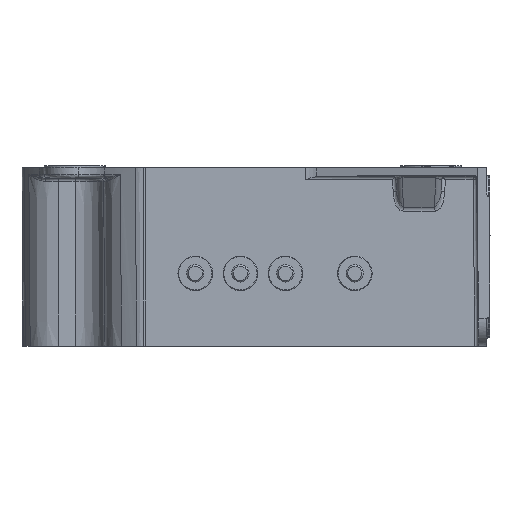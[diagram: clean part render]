
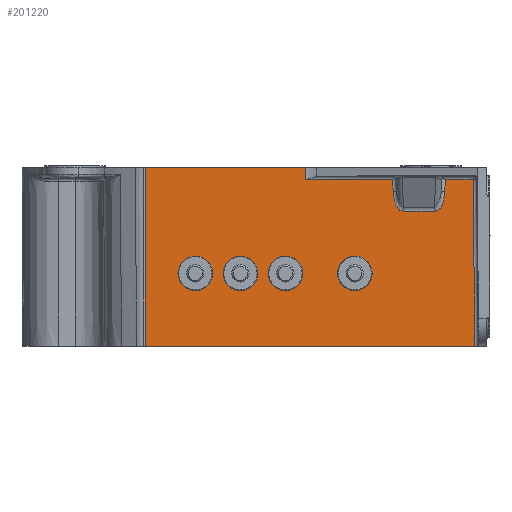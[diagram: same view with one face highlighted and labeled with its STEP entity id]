
A CAD part, left-side view. The second image highlights one B-rep face of the part: STEP entity #201220.
In plain terms, the highlighted planar face has unit normal (-1, 0, 0).
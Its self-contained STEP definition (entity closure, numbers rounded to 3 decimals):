
#12410=CARTESIAN_POINT('',(-60.366,-116.308,
-572.016));
#12420=VERTEX_POINT('',#12410);
#12450=CARTESIAN_POINT('',(-60.366,-116.308,
-572.016));
#12460=DIRECTION('',(0.,1.,0.));
#12470=VECTOR('',#12460,1.);
#12480=LINE('',#12450,#12470);
#12490=CARTESIAN_POINT('',(-60.366,-70.202,
-572.016));
#12500=VERTEX_POINT('',#12490);
#12510=EDGE_CURVE('',#12420,#12500,#12480,.T.);
#199300=CARTESIAN_POINT('',(-60.366,-70.202,
-623.516));
#199310=DIRECTION('',(0.,0.,1.));
#199320=VECTOR('',#199310,1.);
#199330=LINE('',#199300,#199320);
#199340=CARTESIAN_POINT('',(-60.366,-70.202,
-623.516));
#199350=VERTEX_POINT('',#199340);
#199360=EDGE_CURVE('',#199350,#12500,#199330,.T.);
#199550=CARTESIAN_POINT('',(-60.366,-48.629,
-623.516));
#199560=DIRECTION('',(1.,0.,0.));
#199570=DIRECTION('',(0.,1.,0.));
#199580=AXIS2_PLACEMENT_3D('',#199550,#199560,#199570);
#199590=PLANE('',#199580);
#199600=CARTESIAN_POINT('',(-60.366,-165.239,
-623.516));
#199610=DIRECTION('',(0.,0.009,
1.));
#199620=VECTOR('',#199610,1.);
#199630=LINE('',#199600,#199620);
#199640=CARTESIAN_POINT('',(-60.366,-165.239,
-623.516));
#199650=VERTEX_POINT('',#199640);
#199660=CARTESIAN_POINT('',(-60.366,-164.82,
-575.504));
#199670=VERTEX_POINT('',#199660);
#199680=EDGE_CURVE('',#199650,#199670,#199630,.T.);
#199690=ORIENTED_EDGE('',*,*,#199680,.T.);
#199700=CARTESIAN_POINT('',(-60.366,-70.202,
-623.516));
#199710=DIRECTION('',(0.,-1.,0.));
#199720=VECTOR('',#199710,1.);
#199730=LINE('',#199700,#199720);
#199740=EDGE_CURVE('',#199350,#199650,#199730,.T.);
#199750=ORIENTED_EDGE('',*,*,#199740,.T.);
#199760=ORIENTED_EDGE('',*,*,#199360,.F.);
#199770=ORIENTED_EDGE('',*,*,#12510,.T.);
#199780=CARTESIAN_POINT('',(-60.366,-116.308,
-572.016));
#199790=DIRECTION('',(0.,0.,-1.));
#199800=VECTOR('',#199790,1.);
#199810=LINE('',#199780,#199800);
#199820=CARTESIAN_POINT('',(-60.366,-116.308,
-575.504));
#199830=VERTEX_POINT('',#199820);
#199840=EDGE_CURVE('',#12420,#199830,#199810,.T.);
#199850=ORIENTED_EDGE('',*,*,#199840,.F.);
#199860=CARTESIAN_POINT('',(-60.366,-116.308,
-575.504));
#199870=DIRECTION('',(0.,-1.,0.));
#199880=VECTOR('',#199870,1.);
#199890=LINE('',#199860,#199880);
#199900=CARTESIAN_POINT('',(-60.366,-141.534,
-575.504));
#199910=VERTEX_POINT('',#199900);
#199920=EDGE_CURVE('',#199830,#199910,#199890,.T.);
#199930=ORIENTED_EDGE('',*,*,#199920,.F.);
#199940=CARTESIAN_POINT('',(-60.366,-141.708,
-578.827));
#199950=DIRECTION('',(0.,0.052,0.999));
#199960=VECTOR('',#199950,1.);
#199970=LINE('',#199940,#199960);
#199980=CARTESIAN_POINT('',(-60.366,-141.708,
-578.827));
#199990=VERTEX_POINT('',#199980);
#200000=EDGE_CURVE('',#199990,#199910,#199970,.T.);
#200010=ORIENTED_EDGE('',*,*,#200000,.T.);
#200020=CARTESIAN_POINT('',(-60.366,-144.712,
-584.548));
#200030=CARTESIAN_POINT('',(-60.366,-144.564,
-584.548));
#200040=CARTESIAN_POINT('',(-60.366,-144.281,
-584.522));
#200050=CARTESIAN_POINT('',(-60.366,-143.899,
-584.411));
#200060=CARTESIAN_POINT('',(-60.366,-143.557,
-584.233));
#200070=CARTESIAN_POINT('',(-60.366,-143.15,
-583.918));
#200080=CARTESIAN_POINT('',(-60.366,-142.73,
-583.391));
#200090=CARTESIAN_POINT('',(-60.366,-142.348,
-582.596));
#200100=CARTESIAN_POINT('',(-60.366,-142.072,
-581.69));
#200110=CARTESIAN_POINT('',(-60.366,-141.884,
-580.723));
#200120=CARTESIAN_POINT('',(-60.366,-141.767,
-579.747));
#200130=CARTESIAN_POINT('',(-60.366,-141.724,
-579.123));
#200140=CARTESIAN_POINT('',(-60.366,-141.708,
-578.827));
#200150=B_SPLINE_CURVE_WITH_KNOTS('',3,(#200020,#200030,#200040,#200050,
#200060,#200070,#200080,#200090,#200100,#200110,#200120,#200130,#200140)
,.UNSPECIFIED.,.F.,.F.,(4,1,1,1,1,1,1,1,1,1,4),(0.,
0.063,0.125,0.188,0.25
,0.375,0.5,0.625,0.75
,0.875,1.),.UNSPECIFIED.);
#200160=CARTESIAN_POINT('',(-60.366,-144.712,
-584.548));
#200170=VERTEX_POINT('',#200160);
#200180=EDGE_CURVE('',#200170,#199990,#200150,.T.);
#200190=ORIENTED_EDGE('',*,*,#200180,.T.);
#200200=CARTESIAN_POINT('',(-60.366,-144.712,
-584.548));
#200210=DIRECTION('',(0.,-1.,0.));
#200220=VECTOR('',#200210,1.);
#200230=LINE('',#200200,#200220);
#200240=CARTESIAN_POINT('',(-60.366,-153.593,
-584.548));
#200250=VERTEX_POINT('',#200240);
#200260=EDGE_CURVE('',#200170,#200250,#200230,.T.);
#200270=ORIENTED_EDGE('',*,*,#200260,.F.);
#200280=CARTESIAN_POINT('',(-60.366,-156.597,
-578.827));
#200290=CARTESIAN_POINT('',(-60.366,-156.581,
-579.123));
#200300=CARTESIAN_POINT('',(-60.366,-156.538,
-579.747));
#200310=CARTESIAN_POINT('',(-60.366,-156.421,
-580.723));
#200320=CARTESIAN_POINT('',(-60.366,-156.233,
-581.69));
#200330=CARTESIAN_POINT('',(-60.366,-155.957,
-582.596));
#200340=CARTESIAN_POINT('',(-60.366,-155.575,
-583.391));
#200350=CARTESIAN_POINT('',(-60.366,-155.155,
-583.918));
#200360=CARTESIAN_POINT('',(-60.366,-154.748,
-584.233));
#200370=CARTESIAN_POINT('',(-60.366,-154.405,
-584.411));
#200380=CARTESIAN_POINT('',(-60.366,-154.024,
-584.522));
#200390=CARTESIAN_POINT('',(-60.366,-153.741,
-584.548));
#200400=CARTESIAN_POINT('',(-60.366,-153.593,
-584.548));
#200410=B_SPLINE_CURVE_WITH_KNOTS('',3,(#200280,#200290,#200300,#200310,
#200320,#200330,#200340,#200350,#200360,#200370,#200380,#200390,#200400)
,.UNSPECIFIED.,.F.,.F.,(4,1,1,1,1,1,1,1,1,1,4),(0.,
0.125,0.25,0.375,0.5,
0.625,0.75,0.812,0.875,
0.937,1.),.UNSPECIFIED.);
#200420=CARTESIAN_POINT('',(-60.366,-156.597,
-578.827));
#200430=VERTEX_POINT('',#200420);
#200440=EDGE_CURVE('',#200430,#200250,#200410,.T.);
#200450=ORIENTED_EDGE('',*,*,#200440,.T.);
#200460=CARTESIAN_POINT('',(-60.366,-156.771,
-575.504));
#200470=DIRECTION('',(0.,0.052,-0.999));
#200480=VECTOR('',#200470,1.);
#200490=LINE('',#200460,#200480);
#200500=CARTESIAN_POINT('',(-60.366,-156.771,
-575.504));
#200510=VERTEX_POINT('',#200500);
#200520=EDGE_CURVE('',#200510,#200430,#200490,.T.);
#200530=ORIENTED_EDGE('',*,*,#200520,.T.);
#200540=CARTESIAN_POINT('',(-60.366,-156.771,
-575.504));
#200550=DIRECTION('',(0.,-1.,0.));
#200560=VECTOR('',#200550,1.);
#200570=LINE('',#200540,#200560);
#200580=EDGE_CURVE('',#200510,#199670,#200570,.T.);
#200590=ORIENTED_EDGE('',*,*,#200580,.F.);
#200600=EDGE_LOOP('',(#200590,#200530,#200450,#200270,#200190,#200010,
#199930,#199850,#199770,#199760,#199750,#199690));
#200610=FACE_OUTER_BOUND('',#200600,.T.);
#200620=CARTESIAN_POINT('',(-60.366,-130.652,
-602.516));
#200630=DIRECTION('',(1.,0.,0.));
#200640=DIRECTION('',(0.,-1.,0.));
#200650=AXIS2_PLACEMENT_3D('',#200620,#200630,#200640);
#200660=CIRCLE('',#200650,4.9);
#200670=CARTESIAN_POINT('',(-60.366,-125.752,
-602.516));
#200680=VERTEX_POINT('',#200670);
#200690=CARTESIAN_POINT('',(-60.366,-135.552,
-602.516));
#200700=VERTEX_POINT('',#200690);
#200710=EDGE_CURVE('',#200680,#200700,#200660,.T.);
#200720=ORIENTED_EDGE('',*,*,#200710,.T.);
#200730=EDGE_CURVE('',#200700,#200680,#200660,.T.);
#200740=ORIENTED_EDGE('',*,*,#200730,.T.);
#200750=EDGE_LOOP('',(#200740,#200720));
#200760=FACE_BOUND('',#200750,.T.);
#200770=CARTESIAN_POINT('',(-60.366,-110.652,
-602.516));
#200780=DIRECTION('',(1.,0.,0.));
#200790=DIRECTION('',(0.,-1.,0.));
#200800=AXIS2_PLACEMENT_3D('',#200770,#200780,#200790);
#200810=CIRCLE('',#200800,4.9);
#200820=CARTESIAN_POINT('',(-60.366,-105.752,
-602.516));
#200830=VERTEX_POINT('',#200820);
#200840=CARTESIAN_POINT('',(-60.366,-115.552,
-602.516));
#200850=VERTEX_POINT('',#200840);
#200860=EDGE_CURVE('',#200830,#200850,#200810,.T.);
#200870=ORIENTED_EDGE('',*,*,#200860,.T.);
#200880=EDGE_CURVE('',#200850,#200830,#200810,.T.);
#200890=ORIENTED_EDGE('',*,*,#200880,.T.);
#200900=EDGE_LOOP('',(#200890,#200870));
#200910=FACE_BOUND('',#200900,.T.);
#200920=CARTESIAN_POINT('',(-60.366,-97.652,
-602.516));
#200930=DIRECTION('',(1.,0.,0.));
#200940=DIRECTION('',(0.,1.,0.));
#200950=AXIS2_PLACEMENT_3D('',#200920,#200930,#200940);
#200960=CIRCLE('',#200950,4.9);
#200970=CARTESIAN_POINT('',(-60.366,-92.752,
-602.516));
#200980=VERTEX_POINT('',#200970);
#200990=CARTESIAN_POINT('',(-60.366,-102.552,
-602.516));
#201000=VERTEX_POINT('',#200990);
#201010=EDGE_CURVE('',#200980,#201000,#200960,.T.);
#201020=ORIENTED_EDGE('',*,*,#201010,.T.);
#201030=EDGE_CURVE('',#201000,#200980,#200960,.T.);
#201040=ORIENTED_EDGE('',*,*,#201030,.T.);
#201050=EDGE_LOOP('',(#201040,#201020));
#201060=FACE_BOUND('',#201050,.T.);
#201070=CARTESIAN_POINT('',(-60.366,-84.652,
-602.516));
#201080=DIRECTION('',(1.,0.,0.));
#201090=DIRECTION('',(0.,-1.,0.));
#201100=AXIS2_PLACEMENT_3D('',#201070,#201080,#201090);
#201110=CIRCLE('',#201100,4.9);
#201120=CARTESIAN_POINT('',(-60.366,-89.552,
-602.516));
#201130=VERTEX_POINT('',#201120);
#201140=CARTESIAN_POINT('',(-60.366,-79.752,
-602.516));
#201150=VERTEX_POINT('',#201140);
#201160=EDGE_CURVE('',#201130,#201150,#201110,.T.);
#201170=ORIENTED_EDGE('',*,*,#201160,.T.);
#201180=EDGE_CURVE('',#201150,#201130,#201110,.T.);
#201190=ORIENTED_EDGE('',*,*,#201180,.T.);
#201200=EDGE_LOOP('',(#201190,#201170));
#201210=FACE_BOUND('',#201200,.T.);
#201220=ADVANCED_FACE('',(#200610,#200760,#200910,#201060,#201210),
#199590,.F.);
